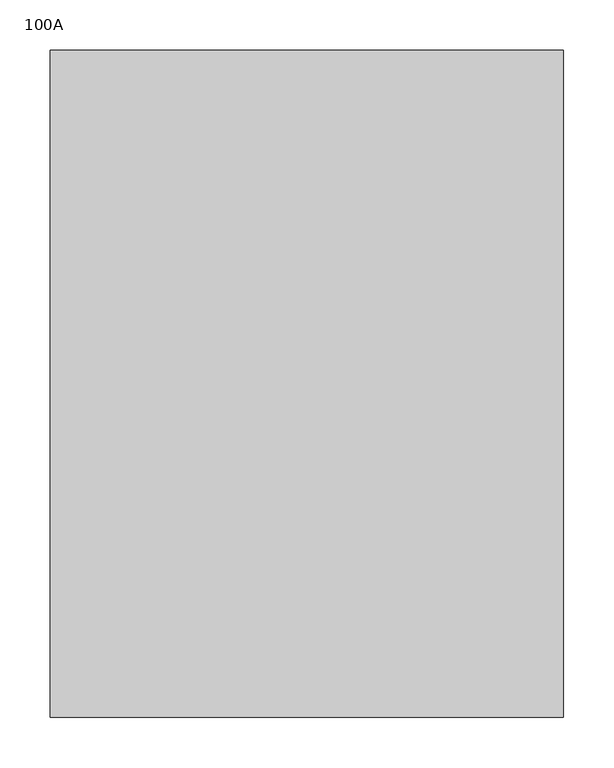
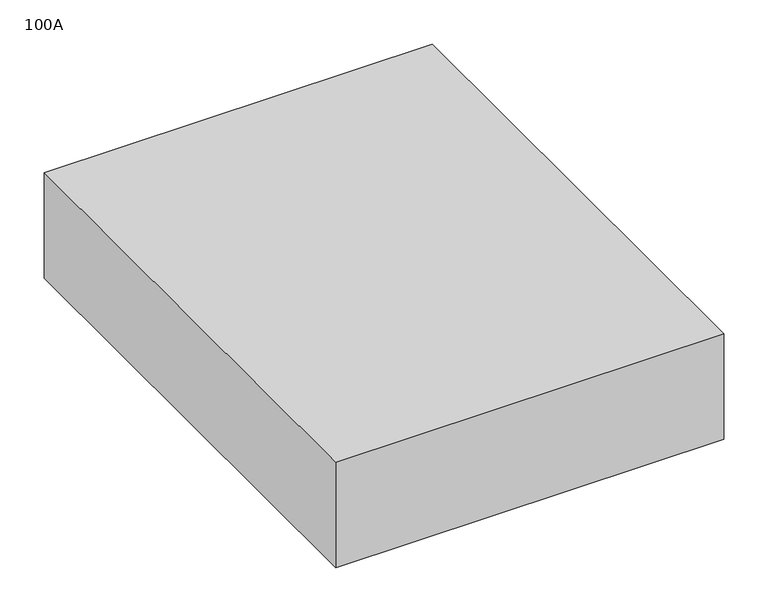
"""IFC4 building model written with IfcOpenShell, lengths in millimetres: proxy geometry, OMAHA - Single Phase Panel - 480V MCB - Surface- CONTROL : 100A."""

from ifc_helpers import new_model, si_unit, origin, origin_with_axes, place, context, project, spatial, polyline, outline, extrude, source, transform, mapped, element, save


def proxy_100a_648d03e8(model_context):
    return source(origin(), model_context, "Body", "SweptSolid", [
        extrude(outline(polyline([(254.0, 0.0), (254.0, -660.4), (-254.0, -660.4), (-254.0, 0.0), (254.0, 0.0)])), origin_with_axes(), (0.0, 0.0, 1.0), 146.05),
    ])


if __name__ == "__main__":
    model = new_model("IFC4")
    model_context = context("Model", 3, world=origin())
    ifc_project = project(units=[si_unit("LENGTHUNIT", "METRE", prefix="MILLI")], contexts=[model_context])
    site = spatial("IfcSite", under=ifc_project)
    building = spatial("IfcBuilding", under=site)
    placement = place(None, origin())
    proxy_100a_shape = proxy_100a_648d03e8(model_context)
    element("IfcBuildingElementProxy", 1, Name="OMAHA - Single Phase Panel - 480V MCB - Surface- CONTROL : 100A", ObjectType="OMAHA - Single Phase Panel - 480V MCB - Surface- CONTROL : 100A", at=placement, inside=building, context=model_context, shape_type="MappedRepresentation", body=[
        mapped(proxy_100a_shape, transform((0.0, 0.0, 0.0), x_axis=(1.0, 0.0, 0.0), y_axis=(0.0, 1.0, 0.0), z_axis=(0.0, 0.0, 1.0))),
    ])
    save(model, "model.ifc")
